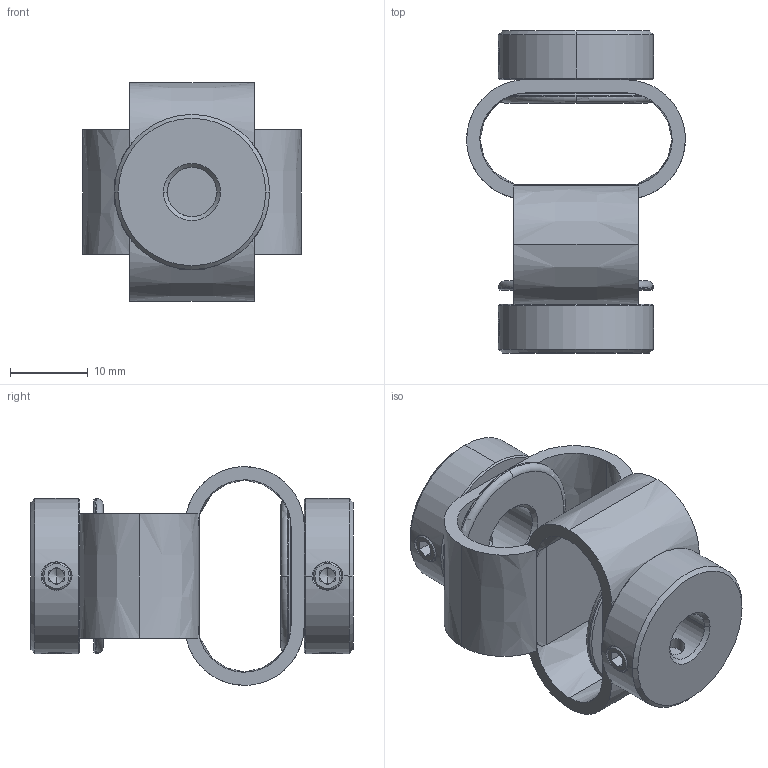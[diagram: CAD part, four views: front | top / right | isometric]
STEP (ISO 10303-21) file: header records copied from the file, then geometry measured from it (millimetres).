
FILE_DESCRIPTION (( 'STEP AP203' ), '1' );
FILE_NAME ('LS-D-D27L40-6.35-8.STEP', '2021-10-28T06:34:23', ( '' ), ( '' ), 'SwSTEP 2.0', 'SolidWorks 2018', '' );
FILE_SCHEMA (( 'CONFIG_CONTROL_DESIGN' ));
Length unit declared in the file: millimetre
Products named in the file (1): LS-D-D27L40-6.35-8
Bounding box: 28.2 x 41.54 x 28.2 mm (x, y, z)
Volume: 7091.1 mm3; surface area: 6683.4 mm2
Topology: 1 solids, 1 shells, 190 faces, 490 edges, 306 vertices
Faces by surface type: plane 86, cone 54, cylinder 30, bspline 16, torus 4
Entity records: 7779 total; most frequent: CARTESIAN_POINT 3221, ORIENTED_EDGE 964, DIRECTION 886, EDGE_CURVE 482, AXIS2_PLACEMENT_3D 345, VERTEX_POINT 306, EDGE_LOOP 218, VECTOR 196
